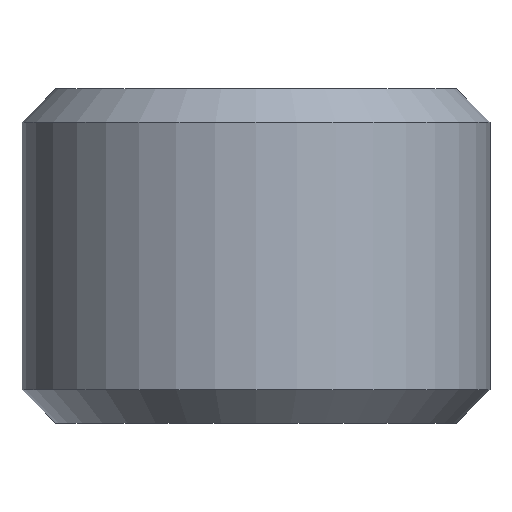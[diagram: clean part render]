
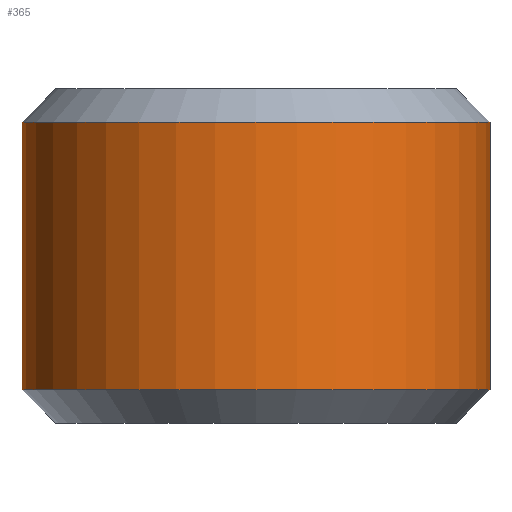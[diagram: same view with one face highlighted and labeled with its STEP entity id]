
A CAD part, front view. The second image highlights one B-rep face of the part: STEP entity #365.
In plain terms, the highlighted cylindrical face has radius 7 mm (diameter 14 mm), a partial arc.
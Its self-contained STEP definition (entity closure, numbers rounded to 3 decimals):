
#7 = CARTESIAN_POINT ( 'NONE',  ( 7., 0., 1. ) ) ;
#15 = CARTESIAN_POINT ( 'NONE',  ( 0., 0., 1. ) ) ;
#38 = CARTESIAN_POINT ( 'NONE',  ( -7., 0., 1. ) ) ;
#40 = VERTEX_POINT ( 'NONE', #169 ) ;
#64 = DIRECTION ( 'NONE',  ( 0., 0., -1. ) ) ;
#71 = EDGE_CURVE ( 'NONE', #40, #423, #317, .T. ) ;
#75 = ORIENTED_EDGE ( 'NONE', *, *, #315, .T. ) ;
#78 = CIRCLE ( 'NONE', #198, 7. ) ;
#87 = EDGE_LOOP ( 'NONE', ( #162, #247, #116, #75 ) ) ;
#98 = DIRECTION ( 'NONE',  ( -1., 0., 0. ) ) ;
#101 = CARTESIAN_POINT ( 'NONE',  ( -7., 0., 9. ) ) ;
#105 = EDGE_CURVE ( 'NONE', #423, #427, #190, .T. ) ;
#116 = ORIENTED_EDGE ( 'NONE', *, *, #105, .T. ) ;
#123 = AXIS2_PLACEMENT_3D ( 'NONE', #176, #64, #98 ) ;
#128 = FACE_OUTER_BOUND ( 'NONE', #87, .T. ) ;
#131 = VECTOR ( 'NONE', #437, 1000. ) ;
#162 = ORIENTED_EDGE ( 'NONE', *, *, #248, .F. ) ;
#169 = CARTESIAN_POINT ( 'NONE',  ( 7., 0., 9. ) ) ;
#176 = CARTESIAN_POINT ( 'NONE',  ( 0., 0., 10. ) ) ;
#190 = LINE ( 'NONE', #417, #131 ) ;
#191 = VECTOR ( 'NONE', #375, 1000. ) ;
#196 = AXIS2_PLACEMENT_3D ( 'NONE', #321, #325, #326 ) ;
#198 = AXIS2_PLACEMENT_3D ( 'NONE', #15, #412, #293 ) ;
#199 = LINE ( 'NONE', #216, #191 ) ;
#216 = CARTESIAN_POINT ( 'NONE',  ( 7., 0., 10. ) ) ;
#218 = VERTEX_POINT ( 'NONE', #7 ) ;
#247 = ORIENTED_EDGE ( 'NONE', *, *, #71, .T. ) ;
#248 = EDGE_CURVE ( 'NONE', #40, #218, #199, .T. ) ;
#284 = CYLINDRICAL_SURFACE ( 'NONE', #123, 7. ) ;
#293 = DIRECTION ( 'NONE',  ( 1., 0., 0. ) ) ;
#315 = EDGE_CURVE ( 'NONE', #427, #218, #78, .T. ) ;
#317 = CIRCLE ( 'NONE', #196, 7. ) ;
#321 = CARTESIAN_POINT ( 'NONE',  ( 0., 0., 9. ) ) ;
#325 = DIRECTION ( 'NONE',  ( 0., 0., -1. ) ) ;
#326 = DIRECTION ( 'NONE',  ( 1., 0., 0. ) ) ;
#365 = ADVANCED_FACE ( 'NONE', ( #128 ), #284, .T. ) ;
#375 = DIRECTION ( 'NONE',  ( 0., 0., -1. ) ) ;
#412 = DIRECTION ( 'NONE',  ( 0., 0., 1. ) ) ;
#417 = CARTESIAN_POINT ( 'NONE',  ( -7., 0., 10. ) ) ;
#423 = VERTEX_POINT ( 'NONE', #101 ) ;
#427 = VERTEX_POINT ( 'NONE', #38 ) ;
#437 = DIRECTION ( 'NONE',  ( 0., 0., -1. ) ) ;
